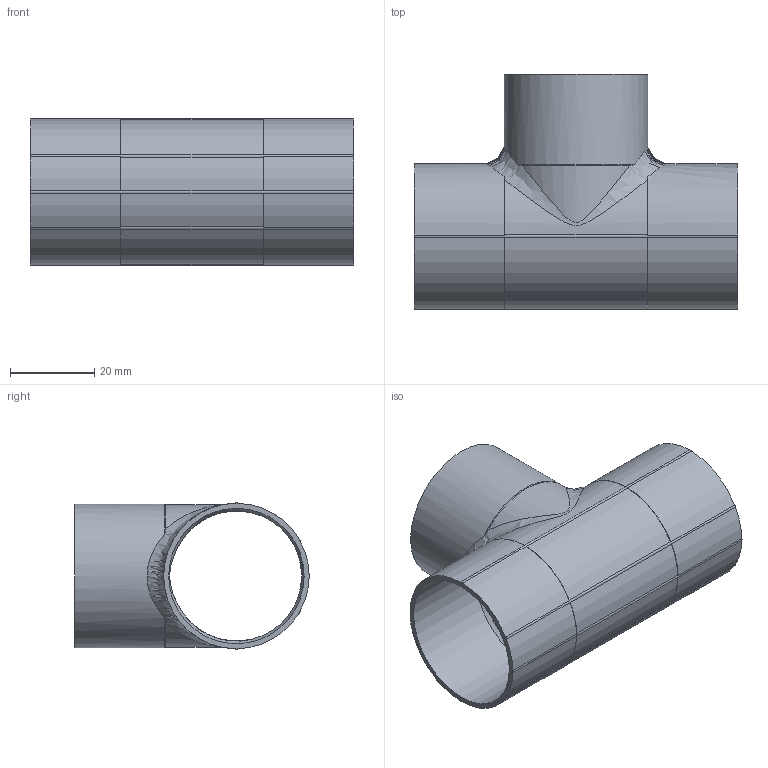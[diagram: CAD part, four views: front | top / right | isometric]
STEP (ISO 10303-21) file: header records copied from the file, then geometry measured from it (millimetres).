
FILE_DESCRIPTION((''),'2;1');
FILE_NAME('G:\SANHA-TERNAT\Technik\Management\Bouwmaten\z-maattekeningen 3D\5000\5130\1513032.stp','2010-10-26T15:59:21',('vdvijverd'),(''),'Autodesk Inventor 2009','Autodesk Inventor 2009','');
FILE_SCHEMA(('AUTOMOTIVE_DESIGN { 1 0 10303 214 1 1 1 1 }'));
Length unit declared in the file: millimetre
Products named in the file (1): 1513032
Bounding box: 77 x 55.87 x 34.81 mm (x, y, z)
Volume: 13084.6 mm3; surface area: 20008.6 mm2
Topology: 1 solids, 1 shells, 53 faces, 157 edges, 101 vertices
Faces by surface type: cylinder 24, bspline 16, cone 10, plane 3
Full cylindrical faces by diameter (mm): 32.2 x2, 34.2 x1
Entity records: 3238 total; most frequent: CARTESIAN_POINT 1940, ORIENTED_EDGE 284, DIRECTION 246, EDGE_CURVE 142, AXIS2_PLACEMENT_3D 108, VERTEX_POINT 97, EDGE_LOOP 63, CIRCLE 62
